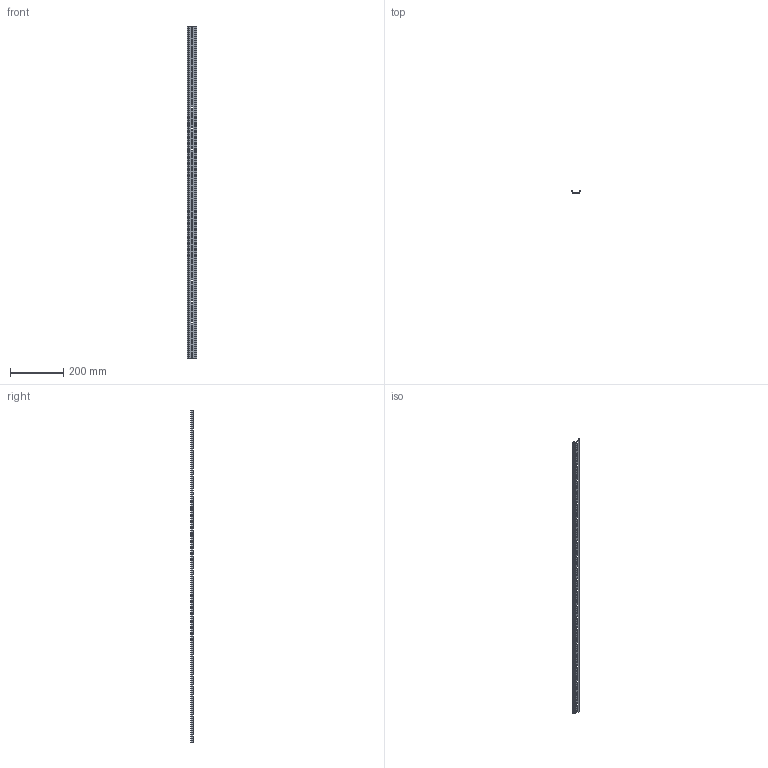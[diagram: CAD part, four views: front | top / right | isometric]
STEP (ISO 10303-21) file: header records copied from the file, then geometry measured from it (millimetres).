
FILE_DESCRIPTION (( 'STEP AP214' ), '1' );
FILE_NAME ('DIN-ðåéêà 1250ìì õ 0,8 ìì.STEP', '2025-10-22T12:56:32', ( '' ), ( '' ), 'SwSTEP 2.0', 'SolidWorks 2018', '' );
FILE_SCHEMA (( 'AUTOMOTIVE_DESIGN' ));
Length unit declared in the file: millimetre
Products named in the file (1): DIN-ðåéêà 1250ìì õ 0,8 ìì
Bounding box: 35.2 x 8.3 x 1250 mm (x, y, z)
Volume: 41142.5 mm3; surface area: 106641.5 mm2
Topology: 1 solids, 1 shells, 288 faces, 826 edges, 540 vertices
Faces by surface type: cylinder 158, plane 130
Entity records: 9724 total; most frequent: DIRECTION 1720, CARTESIAN_POINT 1655, ORIENTED_EDGE 1652, EDGE_CURVE 826, AXIS2_PLACEMENT_3D 605, VERTEX_POINT 540, LINE 510, VECTOR 510
